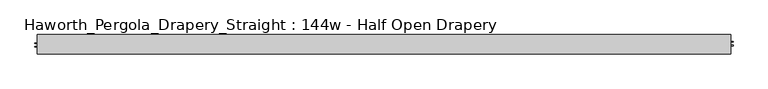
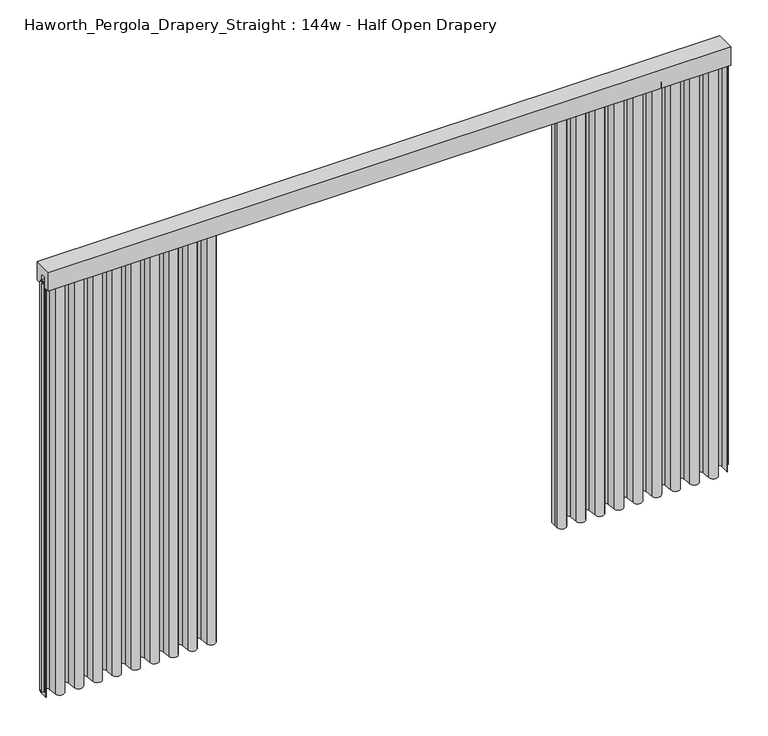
"""IFC4 building model written with IfcOpenShell, lengths in millimetres: furniture geometry, Haworth_Pergola_Drapery_Straight : 144w - Half Open Drapery."""

from ifc_helpers import new_model, si_unit, point, frame, frame_2d, origin, place, context, project, spatial, polyline, circle_curve, trimmed, segment, composite_curve, outline, extrude, source, transform, mapped, element, save


def haworth_pergola_drapery_straight_144w_half_open_drapery_ee76ada1(model_context):
    return source(origin(), model_context, "Body", "SweptSolid", [
        extrude(outline(polyline([(50.8, 2438.4), (50.8, 2331.8390625), (15.2182948, 2331.8390625), (15.2182948, 2388.7001663), (-15.2182948, 2388.7001663), (-15.2182948, 2331.8390625), (-50.8, 2331.8390625), (-50.8, 2438.4), (50.8, 2438.4)])), frame((-1790.7, 0.0, 0.0), z_axis=(1.0, 0.0, 0.0), x_axis=(0.0, 1.0, 0.0)), (0.0, 0.0, 1.0), 3657.6),
        extrude(outline(composite_curve([segment(polyline([(1864.9, 20.9840165), (1864.9, -25.4000008), (1864.10625, -25.4000008), (1864.10625, 20.9840165)]), True, "CONTINUOUS"), segment(trimmed(circle_curve(frame_2d((1841.4970217, 20.9840165)), 22.6092283), [point((1864.10625, 20.9840165))], [point((1818.979759, 23.0211916))], True, "CARTESIAN"), True, "CONTINUOUS"), segment(polyline([(1818.979759, 23.0211916), (1814.7801015, -23.3983779)]), True, "CONTINUOUS"), segment(trimmed(circle_curve(frame_2d((1790.7, -21.2198101)), 24.17845), [point((1814.7801015, -23.3983779))], [point((1766.6198983, -23.3983756))], False, "CARTESIAN"), True, "CONTINUOUS"), segment(polyline([(1766.6198983, -23.3983756), (1762.4298605, 22.9149155)]), True, "CONTINUOUS"), segment(trimmed(circle_curve(frame_2d((1739.9000023, 20.876603)), 22.621875), [point((1762.4298605, 22.9149155))], [point((1717.3701443, 22.9149177))], True, "CARTESIAN"), True, "CONTINUOUS"), segment(polyline([(1717.3701443, 22.9149177), (1713.2109007, -23.0579488)]), True, "CONTINUOUS"), segment(trimmed(circle_curve(frame_2d((1689.1, -20.8765946)), 24.209375), [point((1713.2109007, -23.0579488))], [point((1664.9890991, -23.0579465))], False, "CARTESIAN"), True, "CONTINUOUS"), segment(polyline([(1664.9890991, -23.0579465), (1660.8298605, 22.9149157)]), True, "CONTINUOUS"), segment(trimmed(circle_curve(frame_2d((1638.3000023, 20.8766032)), 22.621875), [point((1660.8298605, 22.9149157))], [point((1615.7701443, 22.9149178))], True, "CARTESIAN"), True, "CONTINUOUS"), segment(polyline([(1615.7701443, 22.9149178), (1611.6109007, -23.0579492)]), True, "CONTINUOUS"), segment(trimmed(circle_curve(frame_2d((1587.5, -20.876595)), 24.209375), [point((1611.6109007, -23.0579492))], [point((1563.3890991, -23.0579469))], False, "CARTESIAN"), True, "CONTINUOUS"), segment(polyline([(1563.3890991, -23.0579469), (1559.2298605, 22.9149155)]), True, "CONTINUOUS"), segment(trimmed(circle_curve(frame_2d((1536.7000023, 20.876603)), 22.621875), [point((1559.2298605, 22.9149155))], [point((1514.1701443, 22.9149177))], True, "CARTESIAN"), True, "CONTINUOUS"), segment(polyline([(1514.1701443, 22.9149177), (1509.9801015, -23.3983779)]), True, "CONTINUOUS"), segment(trimmed(circle_curve(frame_2d((1485.9, -21.2198101)), 24.17845), [point((1509.9801015, -23.3983779))], [point((1461.8198983, -23.3983756))], False, "CARTESIAN"), True, "CONTINUOUS"), segment(polyline([(1461.8198983, -23.3983756), (1457.6298605, 22.9149155)]), True, "CONTINUOUS"), segment(trimmed(circle_curve(frame_2d((1435.1000023, 20.876603)), 22.621875), [point((1457.6298605, 22.9149155))], [point((1412.5701443, 22.9149177))], True, "CARTESIAN"), True, "CONTINUOUS"), segment(polyline([(1412.5701443, 22.9149177), (1408.3801015, -23.3983779)]), True, "CONTINUOUS"), segment(trimmed(circle_curve(frame_2d((1384.3, -21.2198101)), 24.17845), [point((1408.3801015, -23.3983779))], [point((1360.2198983, -23.3983756))], False, "CARTESIAN"), True, "CONTINUOUS"), segment(polyline([(1360.2198983, -23.3983756), (1356.0298605, 22.9149155)]), True, "CONTINUOUS"), segment(trimmed(circle_curve(frame_2d((1333.5000023, 20.876603)), 22.621875), [point((1356.0298605, 22.9149155))], [point((1310.9701443, 22.9149177))], True, "CARTESIAN"), True, "CONTINUOUS"), segment(polyline([(1310.9701443, 22.9149177), (1306.7801015, -23.3983779)]), True, "CONTINUOUS"), segment(trimmed(circle_curve(frame_2d((1282.7, -21.2198101)), 24.17845), [point((1306.7801015, -23.3983779))], [point((1258.6198983, -23.3983756))], False, "CARTESIAN"), True, "CONTINUOUS"), segment(polyline([(1258.6198983, -23.3983756), (1254.4298605, 22.9149155)]), True, "CONTINUOUS"), segment(trimmed(circle_curve(frame_2d((1231.9000023, 20.876603)), 22.621875), [point((1254.4298605, 22.9149155))], [point((1209.3701443, 22.9149177))], True, "CARTESIAN"), True, "CONTINUOUS"), segment(polyline([(1209.3701443, 22.9149177), (1205.1801015, -23.3983779)]), True, "CONTINUOUS"), segment(trimmed(circle_curve(frame_2d((1181.1, -21.2198101)), 24.17845), [point((1205.1801015, -23.3983779))], [point((1157.0198983, -23.3983756))], False, "CARTESIAN"), True, "CONTINUOUS"), segment(polyline([(1157.0198983, -23.3983756), (1152.8298605, 22.9149155)]), True, "CONTINUOUS"), segment(trimmed(circle_curve(frame_2d((1130.3000023, 20.876603)), 22.621875), [point((1152.8298605, 22.9149155))], [point((1107.7701443, 22.9149177))], True, "CARTESIAN"), True, "CONTINUOUS"), segment(polyline([(1107.7701443, 22.9149177), (1103.5801015, -23.3983779)]), True, "CONTINUOUS"), segment(trimmed(circle_curve(frame_2d((1079.5, -21.2198101)), 24.17845), [point((1103.5801015, -23.3983779))], [point((1055.4198983, -23.3983756))], False, "CARTESIAN"), True, "CONTINUOUS"), segment(polyline([(1055.4198983, -23.3983756), (1051.2298605, 22.9149155)]), True, "CONTINUOUS"), segment(trimmed(circle_curve(frame_2d((1028.7000023, 20.876603)), 22.621875), [point((1051.2298605, 22.9149155))], [point((1006.1701443, 22.9149177))], True, "CARTESIAN"), True, "CONTINUOUS"), segment(polyline([(1006.1701443, 22.9149177), (1001.9801015, -23.3983779)]), True, "CONTINUOUS"), segment(trimmed(circle_curve(frame_2d((977.9, -21.2198101)), 24.17845), [point((1001.9801015, -23.3983779))], [point((953.8198983, -23.3983756))], False, "CARTESIAN"), True, "CONTINUOUS"), segment(polyline([(953.8198983, -23.3983756), (952.1371094, -4.7981874), (952.1371094, 25.4000007), (952.9308594, 25.4000007), (952.9308594, -4.7623547), (954.6104196, -23.3268558)]), True, "CONTINUOUS"), segment(trimmed(circle_curve(frame_2d((977.9, -21.2198101)), 23.3847), [point((954.6104196, -23.3268558))], [point((1001.1895802, -23.3268581))], True, "CARTESIAN"), True, "CONTINUOUS"), segment(polyline([(1001.1895802, -23.3268581), (1005.3796229, 22.9864375)]), True, "CONTINUOUS"), segment(trimmed(circle_curve(frame_2d((1028.7000023, 20.876603)), 23.415625), [point((1005.3796229, 22.9864375))], [point((1052.0203818, 22.9864352))], False, "CARTESIAN"), True, "CONTINUOUS"), segment(polyline([(1052.0203818, 22.9864352), (1056.2104196, -23.3268558)]), True, "CONTINUOUS"), segment(trimmed(circle_curve(frame_2d((1079.5, -21.2198101)), 23.3847), [point((1056.2104196, -23.3268558))], [point((1102.7895802, -23.3268581))], True, "CARTESIAN"), True, "CONTINUOUS"), segment(polyline([(1102.7895802, -23.3268581), (1106.9796229, 22.9864375)]), True, "CONTINUOUS"), segment(trimmed(circle_curve(frame_2d((1130.3000023, 20.876603)), 23.415625), [point((1106.9796229, 22.9864375))], [point((1153.6203818, 22.9864352))], False, "CARTESIAN"), True, "CONTINUOUS"), segment(polyline([(1153.6203818, 22.9864352), (1157.8104196, -23.3268558)]), True, "CONTINUOUS"), segment(trimmed(circle_curve(frame_2d((1181.1, -21.2198101)), 23.3847), [point((1157.8104196, -23.3268558))], [point((1204.3895802, -23.3268581))], True, "CARTESIAN"), True, "CONTINUOUS"), segment(polyline([(1204.3895802, -23.3268581), (1208.5796229, 22.9864375)]), True, "CONTINUOUS"), segment(trimmed(circle_curve(frame_2d((1231.9000023, 20.876603)), 23.415625), [point((1208.5796229, 22.9864375))], [point((1255.2203818, 22.9864352))], False, "CARTESIAN"), True, "CONTINUOUS"), segment(polyline([(1255.2203818, 22.9864352), (1259.4104196, -23.3268558)]), True, "CONTINUOUS"), segment(trimmed(circle_curve(frame_2d((1282.7, -21.2198101)), 23.3847), [point((1259.4104196, -23.3268558))], [point((1305.9895802, -23.3268581))], True, "CARTESIAN"), True, "CONTINUOUS"), segment(polyline([(1305.9895802, -23.3268581), (1310.1796229, 22.9864375)]), True, "CONTINUOUS"), segment(trimmed(circle_curve(frame_2d((1333.5000023, 20.876603)), 23.415625), [point((1310.1796229, 22.9864375))], [point((1356.8203818, 22.9864352))], False, "CARTESIAN"), True, "CONTINUOUS"), segment(polyline([(1356.8203818, 22.9864352), (1361.0104196, -23.3268558)]), True, "CONTINUOUS"), segment(trimmed(circle_curve(frame_2d((1384.3, -21.2198101)), 23.3847), [point((1361.0104196, -23.3268558))], [point((1407.5895802, -23.3268581))], True, "CARTESIAN"), True, "CONTINUOUS"), segment(polyline([(1407.5895802, -23.3268581), (1411.7796229, 22.9864375)]), True, "CONTINUOUS"), segment(trimmed(circle_curve(frame_2d((1435.1000023, 20.876603)), 23.415625), [point((1411.7796229, 22.9864375))], [point((1458.4203818, 22.9864352))], False, "CARTESIAN"), True, "CONTINUOUS"), segment(polyline([(1458.4203818, 22.9864352), (1462.6104196, -23.3268558)]), True, "CONTINUOUS"), segment(trimmed(circle_curve(frame_2d((1485.9, -21.2198101)), 23.3847), [point((1462.6104196, -23.3268558))], [point((1509.1895802, -23.3268581))], True, "CARTESIAN"), True, "CONTINUOUS"), segment(polyline([(1509.1895802, -23.3268581), (1513.3796229, 22.9864375)]), True, "CONTINUOUS"), segment(trimmed(circle_curve(frame_2d((1536.7000023, 20.876603)), 23.415625), [point((1513.3796229, 22.9864375))], [point((1560.0203818, 22.9864352))], False, "CARTESIAN"), True, "CONTINUOUS"), segment(polyline([(1560.0203818, 22.9864352), (1564.1796205, -22.9864271)]), True, "CONTINUOUS"), segment(trimmed(circle_curve(frame_2d((1587.5, -20.876595)), 23.415625), [point((1564.1796205, -22.9864271))], [point((1610.8203794, -22.9864294))], True, "CARTESIAN"), True, "CONTINUOUS"), segment(polyline([(1610.8203794, -22.9864294), (1614.9796229, 22.9864377)]), True, "CONTINUOUS"), segment(trimmed(circle_curve(frame_2d((1638.3000023, 20.8766032)), 23.415625), [point((1614.9796229, 22.9864377))], [point((1661.6203818, 22.9864354))], False, "CARTESIAN"), True, "CONTINUOUS"), segment(polyline([(1661.6203818, 22.9864354), (1665.7796205, -22.9864268)]), True, "CONTINUOUS"), segment(trimmed(circle_curve(frame_2d((1689.1, -20.8765946)), 23.415625), [point((1665.7796205, -22.9864268))], [point((1712.4203794, -22.986429))], True, "CARTESIAN"), True, "CONTINUOUS"), segment(polyline([(1712.4203794, -22.986429), (1716.5796229, 22.9864375)]), True, "CONTINUOUS"), segment(trimmed(circle_curve(frame_2d((1739.9000023, 20.876603)), 23.415625), [point((1716.5796229, 22.9864375))], [point((1763.2203818, 22.9864352))], False, "CARTESIAN"), True, "CONTINUOUS"), segment(polyline([(1763.2203818, 22.9864352), (1767.4104196, -23.3268558)]), True, "CONTINUOUS"), segment(trimmed(circle_curve(frame_2d((1790.7, -21.2198101)), 23.3847), [point((1767.4104196, -23.3268558))], [point((1813.9895802, -23.3268581))], True, "CARTESIAN"), True, "CONTINUOUS"), segment(polyline([(1813.9895802, -23.3268581), (1818.1892377, 23.0927114)]), True, "CONTINUOUS"), segment(trimmed(circle_curve(frame_2d((1841.4970217, 20.9840165)), 23.4029783), [point((1818.1892377, 23.0927114))], [point((1864.9, 20.9840165))], False, "CARTESIAN"), True, "CONTINUOUS")], self_intersect=False)), frame((0.0, 0.0, 12.7), z_axis=(0.0, 0.0, 1.0), x_axis=(1.0, 0.0, 0.0)), (0.0, 0.0, 1.0), 2343.15),
        extrude(outline(composite_curve([segment(trimmed(circle_curve(frame_2d((-1765.2970217, 20.9840165)), 23.4029783), [point((-1788.7, 20.9840165))], [point((-1741.9892377, 23.0927114))], False, "CARTESIAN"), True, "CONTINUOUS"), segment(polyline([(-1741.9892377, 23.0927114), (-1737.7895802, -23.3268581)]), True, "CONTINUOUS"), segment(trimmed(circle_curve(frame_2d((-1714.5, -21.2198101)), 23.3847), [point((-1737.7895802, -23.3268581))], [point((-1691.2104196, -23.3268558))], True, "CARTESIAN"), True, "CONTINUOUS"), segment(polyline([(-1691.2104196, -23.3268558), (-1687.0203818, 22.9864352)]), True, "CONTINUOUS"), segment(trimmed(circle_curve(frame_2d((-1663.7000023, 20.876603)), 23.415625), [point((-1687.0203818, 22.9864352))], [point((-1640.3796229, 22.9864375))], False, "CARTESIAN"), True, "CONTINUOUS"), segment(polyline([(-1640.3796229, 22.9864375), (-1636.2203794, -22.986429)]), True, "CONTINUOUS"), segment(trimmed(circle_curve(frame_2d((-1612.9, -20.8765946)), 23.415625), [point((-1636.2203794, -22.986429))], [point((-1589.5796205, -22.9864268))], True, "CARTESIAN"), True, "CONTINUOUS"), segment(polyline([(-1589.5796205, -22.9864268), (-1585.4203818, 22.9864354)]), True, "CONTINUOUS"), segment(trimmed(circle_curve(frame_2d((-1562.1000023, 20.8766032)), 23.415625), [point((-1585.4203818, 22.9864354))], [point((-1538.7796229, 22.9864377))], False, "CARTESIAN"), True, "CONTINUOUS"), segment(polyline([(-1538.7796229, 22.9864377), (-1534.6203794, -22.9864294)]), True, "CONTINUOUS"), segment(trimmed(circle_curve(frame_2d((-1511.3, -20.876595)), 23.415625), [point((-1534.6203794, -22.9864294))], [point((-1487.9796205, -22.9864271))], True, "CARTESIAN"), True, "CONTINUOUS"), segment(polyline([(-1487.9796205, -22.9864271), (-1483.8203818, 22.9864352)]), True, "CONTINUOUS"), segment(trimmed(circle_curve(frame_2d((-1460.5000023, 20.876603)), 23.415625), [point((-1483.8203818, 22.9864352))], [point((-1437.1796229, 22.9864375))], False, "CARTESIAN"), True, "CONTINUOUS"), segment(polyline([(-1437.1796229, 22.9864375), (-1432.9895802, -23.3268581)]), True, "CONTINUOUS"), segment(trimmed(circle_curve(frame_2d((-1409.7, -21.2198101)), 23.3847), [point((-1432.9895802, -23.3268581))], [point((-1386.4104196, -23.3268558))], True, "CARTESIAN"), True, "CONTINUOUS"), segment(polyline([(-1386.4104196, -23.3268558), (-1382.2203818, 22.9864352)]), True, "CONTINUOUS"), segment(trimmed(circle_curve(frame_2d((-1358.9000023, 20.876603)), 23.415625), [point((-1382.2203818, 22.9864352))], [point((-1335.5796229, 22.9864375))], False, "CARTESIAN"), True, "CONTINUOUS"), segment(polyline([(-1335.5796229, 22.9864375), (-1331.3895802, -23.3268581)]), True, "CONTINUOUS"), segment(trimmed(circle_curve(frame_2d((-1308.1, -21.2198101)), 23.3847), [point((-1331.3895802, -23.3268581))], [point((-1284.8104196, -23.3268558))], True, "CARTESIAN"), True, "CONTINUOUS"), segment(polyline([(-1284.8104196, -23.3268558), (-1280.6203818, 22.9864352)]), True, "CONTINUOUS"), segment(trimmed(circle_curve(frame_2d((-1257.3000023, 20.876603)), 23.415625), [point((-1280.6203818, 22.9864352))], [point((-1233.9796229, 22.9864375))], False, "CARTESIAN"), True, "CONTINUOUS"), segment(polyline([(-1233.9796229, 22.9864375), (-1229.7895802, -23.3268581)]), True, "CONTINUOUS"), segment(trimmed(circle_curve(frame_2d((-1206.5, -21.2198101)), 23.3847), [point((-1229.7895802, -23.3268581))], [point((-1183.2104196, -23.3268558))], True, "CARTESIAN"), True, "CONTINUOUS"), segment(polyline([(-1183.2104196, -23.3268558), (-1179.0203818, 22.9864352)]), True, "CONTINUOUS"), segment(trimmed(circle_curve(frame_2d((-1155.7000023, 20.876603)), 23.415625), [point((-1179.0203818, 22.9864352))], [point((-1132.3796229, 22.9864375))], False, "CARTESIAN"), True, "CONTINUOUS"), segment(polyline([(-1132.3796229, 22.9864375), (-1128.1895802, -23.3268581)]), True, "CONTINUOUS"), segment(trimmed(circle_curve(frame_2d((-1104.9, -21.2198101)), 23.3847), [point((-1128.1895802, -23.3268581))], [point((-1081.6104196, -23.3268558))], True, "CARTESIAN"), True, "CONTINUOUS"), segment(polyline([(-1081.6104196, -23.3268558), (-1077.4203818, 22.9864352)]), True, "CONTINUOUS"), segment(trimmed(circle_curve(frame_2d((-1054.1000023, 20.876603)), 23.415625), [point((-1077.4203818, 22.9864352))], [point((-1030.7796229, 22.9864375))], False, "CARTESIAN"), True, "CONTINUOUS"), segment(polyline([(-1030.7796229, 22.9864375), (-1026.5895802, -23.3268581)]), True, "CONTINUOUS"), segment(trimmed(circle_curve(frame_2d((-1003.3, -21.2198101)), 23.3847), [point((-1026.5895802, -23.3268581))], [point((-980.0104196, -23.3268558))], True, "CARTESIAN"), True, "CONTINUOUS"), segment(polyline([(-980.0104196, -23.3268558), (-975.8203818, 22.9864352)]), True, "CONTINUOUS"), segment(trimmed(circle_curve(frame_2d((-952.5000023, 20.876603)), 23.415625), [point((-975.8203818, 22.9864352))], [point((-929.1796229, 22.9864375))], False, "CARTESIAN"), True, "CONTINUOUS"), segment(polyline([(-929.1796229, 22.9864375), (-924.9895802, -23.3268581)]), True, "CONTINUOUS"), segment(trimmed(circle_curve(frame_2d((-901.7, -21.2198101)), 23.3847), [point((-924.9895802, -23.3268581))], [point((-878.4104196, -23.3268558))], True, "CARTESIAN"), True, "CONTINUOUS"), segment(polyline([(-878.4104196, -23.3268558), (-876.7308594, -4.7623547), (-876.7308594, 25.4000007), (-875.9371094, 25.4000007), (-875.9371094, -4.7981874), (-877.6198983, -23.3983756)]), True, "CONTINUOUS"), segment(trimmed(circle_curve(frame_2d((-901.7, -21.2198101)), 24.17845), [point((-877.6198983, -23.3983756))], [point((-925.7801015, -23.3983779))], False, "CARTESIAN"), True, "CONTINUOUS"), segment(polyline([(-925.7801015, -23.3983779), (-929.9701443, 22.9149177)]), True, "CONTINUOUS"), segment(trimmed(circle_curve(frame_2d((-952.5000023, 20.876603)), 22.621875), [point((-929.9701443, 22.9149177))], [point((-975.0298605, 22.9149155))], True, "CARTESIAN"), True, "CONTINUOUS"), segment(polyline([(-975.0298605, 22.9149155), (-979.2198983, -23.3983756)]), True, "CONTINUOUS"), segment(trimmed(circle_curve(frame_2d((-1003.3, -21.2198101)), 24.17845), [point((-979.2198983, -23.3983756))], [point((-1027.3801015, -23.3983779))], False, "CARTESIAN"), True, "CONTINUOUS"), segment(polyline([(-1027.3801015, -23.3983779), (-1031.5701443, 22.9149177)]), True, "CONTINUOUS"), segment(trimmed(circle_curve(frame_2d((-1054.1000023, 20.876603)), 22.621875), [point((-1031.5701443, 22.9149177))], [point((-1076.6298605, 22.9149155))], True, "CARTESIAN"), True, "CONTINUOUS"), segment(polyline([(-1076.6298605, 22.9149155), (-1080.8198983, -23.3983756)]), True, "CONTINUOUS"), segment(trimmed(circle_curve(frame_2d((-1104.9, -21.2198101)), 24.17845), [point((-1080.8198983, -23.3983756))], [point((-1128.9801015, -23.3983779))], False, "CARTESIAN"), True, "CONTINUOUS"), segment(polyline([(-1128.9801015, -23.3983779), (-1133.1701443, 22.9149177)]), True, "CONTINUOUS"), segment(trimmed(circle_curve(frame_2d((-1155.7000023, 20.876603)), 22.621875), [point((-1133.1701443, 22.9149177))], [point((-1178.2298605, 22.9149155))], True, "CARTESIAN"), True, "CONTINUOUS"), segment(polyline([(-1178.2298605, 22.9149155), (-1182.4198983, -23.3983756)]), True, "CONTINUOUS"), segment(trimmed(circle_curve(frame_2d((-1206.5, -21.2198101)), 24.17845), [point((-1182.4198983, -23.3983756))], [point((-1230.5801015, -23.3983779))], False, "CARTESIAN"), True, "CONTINUOUS"), segment(polyline([(-1230.5801015, -23.3983779), (-1234.7701443, 22.9149177)]), True, "CONTINUOUS"), segment(trimmed(circle_curve(frame_2d((-1257.3000023, 20.876603)), 22.621875), [point((-1234.7701443, 22.9149177))], [point((-1279.8298605, 22.9149155))], True, "CARTESIAN"), True, "CONTINUOUS"), segment(polyline([(-1279.8298605, 22.9149155), (-1284.0198983, -23.3983756)]), True, "CONTINUOUS"), segment(trimmed(circle_curve(frame_2d((-1308.1, -21.2198101)), 24.17845), [point((-1284.0198983, -23.3983756))], [point((-1332.1801015, -23.3983779))], False, "CARTESIAN"), True, "CONTINUOUS"), segment(polyline([(-1332.1801015, -23.3983779), (-1336.3701443, 22.9149177)]), True, "CONTINUOUS"), segment(trimmed(circle_curve(frame_2d((-1358.9000023, 20.876603)), 22.621875), [point((-1336.3701443, 22.9149177))], [point((-1381.4298605, 22.9149155))], True, "CARTESIAN"), True, "CONTINUOUS"), segment(polyline([(-1381.4298605, 22.9149155), (-1385.6198983, -23.3983756)]), True, "CONTINUOUS"), segment(trimmed(circle_curve(frame_2d((-1409.7, -21.2198101)), 24.17845), [point((-1385.6198983, -23.3983756))], [point((-1433.7801015, -23.3983779))], False, "CARTESIAN"), True, "CONTINUOUS"), segment(polyline([(-1433.7801015, -23.3983779), (-1437.9701443, 22.9149177)]), True, "CONTINUOUS"), segment(trimmed(circle_curve(frame_2d((-1460.5000023, 20.876603)), 22.621875), [point((-1437.9701443, 22.9149177))], [point((-1483.0298605, 22.9149155))], True, "CARTESIAN"), True, "CONTINUOUS"), segment(polyline([(-1483.0298605, 22.9149155), (-1487.1890991, -23.0579469)]), True, "CONTINUOUS"), segment(trimmed(circle_curve(frame_2d((-1511.3, -20.876595)), 24.209375), [point((-1487.1890991, -23.0579469))], [point((-1535.4109007, -23.0579492))], False, "CARTESIAN"), True, "CONTINUOUS"), segment(polyline([(-1535.4109007, -23.0579492), (-1539.5701443, 22.9149178)]), True, "CONTINUOUS"), segment(trimmed(circle_curve(frame_2d((-1562.1000023, 20.8766032)), 22.621875), [point((-1539.5701443, 22.9149178))], [point((-1584.6298605, 22.9149157))], True, "CARTESIAN"), True, "CONTINUOUS"), segment(polyline([(-1584.6298605, 22.9149157), (-1588.7890991, -23.0579465)]), True, "CONTINUOUS"), segment(trimmed(circle_curve(frame_2d((-1612.9, -20.8765946)), 24.209375), [point((-1588.7890991, -23.0579465))], [point((-1637.0109007, -23.0579488))], False, "CARTESIAN"), True, "CONTINUOUS"), segment(polyline([(-1637.0109007, -23.0579488), (-1641.1701443, 22.9149177)]), True, "CONTINUOUS"), segment(trimmed(circle_curve(frame_2d((-1663.7000023, 20.876603)), 22.621875), [point((-1641.1701443, 22.9149177))], [point((-1686.2298605, 22.9149155))], True, "CARTESIAN"), True, "CONTINUOUS"), segment(polyline([(-1686.2298605, 22.9149155), (-1690.4198983, -23.3983756)]), True, "CONTINUOUS"), segment(trimmed(circle_curve(frame_2d((-1714.5, -21.2198101)), 24.17845), [point((-1690.4198983, -23.3983756))], [point((-1738.5801015, -23.3983779))], False, "CARTESIAN"), True, "CONTINUOUS"), segment(polyline([(-1738.5801015, -23.3983779), (-1742.779759, 23.0211916)]), True, "CONTINUOUS"), segment(trimmed(circle_curve(frame_2d((-1765.2970217, 20.9840165)), 22.6092283), [point((-1742.779759, 23.0211916))], [point((-1787.90625, 20.9840165))], True, "CARTESIAN"), True, "CONTINUOUS"), segment(polyline([(-1787.90625, 20.9840165), (-1787.90625, -25.4000008), (-1788.7, -25.4000008), (-1788.7, 20.9840165)]), True, "CONTINUOUS")], self_intersect=False)), frame((0.0, 0.0, 12.7), z_axis=(0.0, 0.0, 1.0), x_axis=(1.0, 0.0, 0.0)), (0.0, 0.0, 1.0), 2343.15),
        extrude(outline(polyline([(-1790.7, 15.2249995), (1866.9, 15.2249995), (1866.9, -15.2249996), (-1790.7, -15.2249996), (-1790.7, 15.2249995)])), frame((0.0, 0.0, 2355.85), z_axis=(0.0, 0.0, 1.0), x_axis=(1.0, 0.0, 0.0)), (0.0, 0.0, 1.0), 1.7500385),
        extrude(outline(polyline([(1866.9, 15.2249996), (1868.6500001, 15.2249996), (1868.6500001, 13.3999997), (1880.1499997, 13.3999997), (1880.1499997, 11.8250005), (1868.6500001, 11.8250005), (1868.6500001, -4.8250001), (1880.2999997, -4.8250001), (1880.2999997, -7.8249998), (1868.6500001, -7.8249998), (1868.6500001, -15.2249995), (1866.9, -15.2249995), (1866.9, 15.2249996)])), frame((0.0, 0.0, 38.1), z_axis=(0.0, 0.0, 1.0), x_axis=(1.0, 0.0, 0.0)), (0.0, 0.0, 1.0), 2317.75),
        extrude(outline(polyline([(-1790.7, -15.2249996), (-1792.4500001, -15.2249996), (-1792.4500001, -13.3999997), (-1803.9499997, -13.3999997), (-1803.9499997, -11.8250005), (-1792.4500001, -11.8250005), (-1792.4500001, 4.8250001), (-1804.0999997, 4.8250001), (-1804.0999997, 7.8249998), (-1792.4500001, 7.8249998), (-1792.4500001, 15.2249995), (-1790.7, 15.2249995), (-1790.7, -15.2249996)])), frame((0.0, 0.0, 38.1), z_axis=(0.0, 0.0, 1.0), x_axis=(1.0, 0.0, 0.0)), (0.0, 0.0, 1.0), 2317.75),
        extrude(outline(composite_curve([segment(trimmed(circle_curve(frame_2d((38.1000001, -1e-07)), 6.0), [point((32.1000001, -1e-07))], [point((44.1000001, -1e-07))], False, "CARTESIAN"), True, "CONTINUOUS"), segment(trimmed(circle_curve(frame_2d((38.1000001, -1e-07)), 6.0), [point((44.1000001, -1e-07))], [point((32.1000001, -1e-07))], False, "CARTESIAN"), True, "CONTINUOUS")], self_intersect=False)), frame((0.0, 0.0, 2319.1390625), z_axis=(0.0, 0.0, 1.0), x_axis=(1.0, 0.0, 0.0)), (0.0, 0.0, 1.0), 36.7109375),
    ])


if __name__ == "__main__":
    model = new_model("IFC4")
    model_context = context("Model", 3, world=origin())
    ifc_project = project(units=[si_unit("LENGTHUNIT", "METRE", prefix="MILLI")], contexts=[model_context])
    site = spatial("IfcSite", under=ifc_project)
    building = spatial("IfcBuilding", under=site)
    placement = place(None, origin())
    haworth_pergola_drapery_straight_144w_half_open_drapery_shape = haworth_pergola_drapery_straight_144w_half_open_drapery_ee76ada1(model_context)
    element("IfcFurniture", 1, ObjectType="Haworth_Pergola_Drapery_Straight : 144w - Half Open Drapery", at=placement, inside=building, context=model_context, shape_type="MappedRepresentation", body=[
        mapped(haworth_pergola_drapery_straight_144w_half_open_drapery_shape, transform((0.0, 0.0, 0.0), x_axis=(1.0, 0.0, 0.0), y_axis=(0.0, 1.0, 0.0), z_axis=(0.0, 0.0, 1.0))),
    ])
    save(model, "model.ifc")
